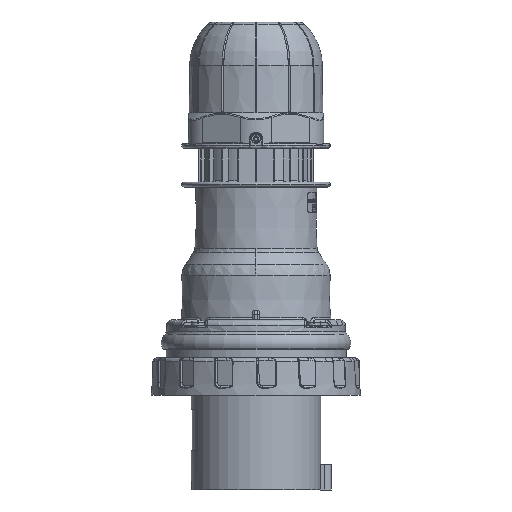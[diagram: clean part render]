
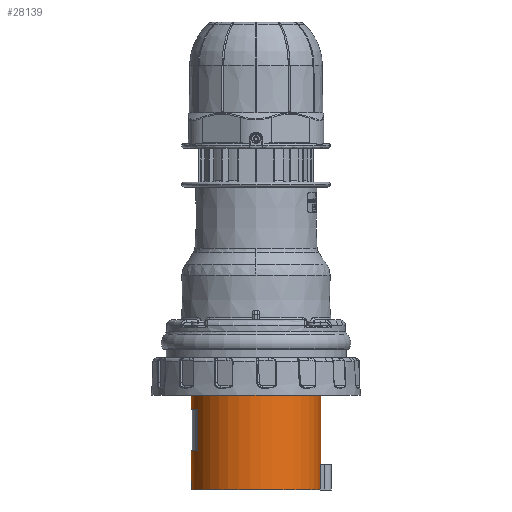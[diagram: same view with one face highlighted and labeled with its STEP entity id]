
A CAD part, left-side view. The second image highlights one B-rep face of the part: STEP entity #28139.
In plain terms, the highlighted cylindrical face has radius 40.5 mm (diameter 81 mm), a full revolution.
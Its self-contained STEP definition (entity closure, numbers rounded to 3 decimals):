
#1108=CYLINDRICAL_SURFACE('',#92622,40.5);
#4261=LINE('',#145912,#10192);
#4265=LINE('',#145924,#10196);
#4275=LINE('',#145955,#10206);
#4278=LINE('',#145961,#10209);
#4343=LINE('',#146230,#10274);
#4344=LINE('',#146234,#10275);
#10192=VECTOR('',#105226,1.);
#10196=VECTOR('',#105238,1.);
#10206=VECTOR('',#105268,1.);
#10209=VECTOR('',#105273,1.);
#10274=VECTOR('',#105562,1.);
#10275=VECTOR('',#105565,1.);
#28139=ADVANCED_FACE('',(#31925,#31926,#31927),#1108,.T.);
#31925=FACE_BOUND('',#34766,.T.);
#31926=FACE_BOUND('',#34767,.T.);
#31927=FACE_BOUND('',#34768,.T.);
#34766=EDGE_LOOP('',(#48253,#48254,#48255,#48256));
#34767=EDGE_LOOP('',(#48257,#48258,#48259,#48260));
#34768=EDGE_LOOP('',(#48261,#48262,#48263,#48264));
#48253=ORIENTED_EDGE('',*,*,#78365,.F.);
#48254=ORIENTED_EDGE('',*,*,#78366,.F.);
#48255=ORIENTED_EDGE('',*,*,#78367,.F.);
#48256=ORIENTED_EDGE('',*,*,#78368,.F.);
#48257=ORIENTED_EDGE('',*,*,#78230,.F.);
#48258=ORIENTED_EDGE('',*,*,#78369,.F.);
#48259=ORIENTED_EDGE('',*,*,#78233,.T.);
#48260=ORIENTED_EDGE('',*,*,#78227,.T.);
#48261=ORIENTED_EDGE('',*,*,#78370,.T.);
#48262=ORIENTED_EDGE('',*,*,#78209,.F.);
#48263=ORIENTED_EDGE('',*,*,#78217,.F.);
#48264=ORIENTED_EDGE('',*,*,#78215,.F.);
#67789=VERTEX_POINT('',#145911);
#67790=VERTEX_POINT('',#145913);
#67793=VERTEX_POINT('',#145923);
#67794=VERTEX_POINT('',#145925);
#67801=VERTEX_POINT('',#145946);
#67802=VERTEX_POINT('',#145948);
#67804=VERTEX_POINT('',#145954);
#67805=VERTEX_POINT('',#145958);
#67897=VERTEX_POINT('',#146228);
#67898=VERTEX_POINT('',#146229);
#67899=VERTEX_POINT('',#146231);
#67900=VERTEX_POINT('',#146233);
#78209=EDGE_CURVE('',#67789,#67790,#4261,.T.);
#78215=EDGE_CURVE('',#67793,#67794,#4265,.T.);
#78217=EDGE_CURVE('',#67794,#67789,#87796,.T.);
#78227=EDGE_CURVE('',#67801,#67802,#87800,.T.);
#78230=EDGE_CURVE('',#67804,#67802,#4275,.T.);
#78233=EDGE_CURVE('',#67805,#67801,#4278,.T.);
#78365=EDGE_CURVE('',#67897,#67898,#87868,.T.);
#78366=EDGE_CURVE('',#67899,#67897,#4343,.T.);
#78367=EDGE_CURVE('',#67900,#67899,#87869,.T.);
#78368=EDGE_CURVE('',#67898,#67900,#4344,.T.);
#78369=EDGE_CURVE('',#67805,#67804,#87870,.T.);
#78370=EDGE_CURVE('',#67793,#67790,#87871,.T.);
#87796=CIRCLE('',#92497,40.5);
#87800=CIRCLE('',#92504,40.5);
#87868=CIRCLE('',#92618,40.5);
#87869=CIRCLE('',#92619,40.5);
#87870=CIRCLE('',#92620,40.5);
#87871=CIRCLE('',#92621,40.5);
#92497=AXIS2_PLACEMENT_3D('',#145928,#105242,#105243);
#92504=AXIS2_PLACEMENT_3D('',#145949,#105262,#105263);
#92618=AXIS2_PLACEMENT_3D('',#146227,#105560,#105561);
#92619=AXIS2_PLACEMENT_3D('',#146232,#105563,#105564);
#92620=AXIS2_PLACEMENT_3D('',#146235,#105566,#105567);
#92621=AXIS2_PLACEMENT_3D('',#146236,#105568,#105569);
#92622=AXIS2_PLACEMENT_3D('',#146237,#105570,#105571);
#105226=DIRECTION('',(0.,0.,-1.));
#105238=DIRECTION('',(0.,0.,1.));
#105242=DIRECTION('',(0.,0.,-1.));
#105243=DIRECTION('',(-1.,0.,0.));
#105262=DIRECTION('',(0.,0.,-1.));
#105263=DIRECTION('',(-1.,0.,0.));
#105268=DIRECTION('',(0.,0.,1.));
#105273=DIRECTION('',(0.,0.,1.));
#105560=DIRECTION('',(0.,0.,1.));
#105561=DIRECTION('',(0.,1.,0.));
#105562=DIRECTION('',(0.,0.,-1.));
#105563=DIRECTION('',(0.,0.,-1.));
#105564=DIRECTION('',(0.,-1.,0.));
#105565=DIRECTION('',(0.,0.,1.));
#105566=DIRECTION('',(0.,0.,1.));
#105567=DIRECTION('',(-1.,0.,0.));
#105568=DIRECTION('',(0.,0.,1.));
#105569=DIRECTION('',(-1.,0.,0.));
#105570=DIRECTION('',(0.,0.,1.));
#105571=DIRECTION('',(1.,0.,0.));
#145911=CARTESIAN_POINT('',(-11.519,-24.656,-263.45));
#145912=CARTESIAN_POINT('',(-11.519,-24.656,-263.45));
#145913=CARTESIAN_POINT('',(-11.519,-24.656,-279.7));
#145923=CARTESIAN_POINT('',(-3.719,-24.656,-279.7));
#145924=CARTESIAN_POINT('',(-3.719,-24.656,-279.7));
#145925=CARTESIAN_POINT('',(-3.719,-24.656,-263.45));
#145928=CARTESIAN_POINT('',(-7.619,15.656,-263.45));
#145946=CARTESIAN_POINT('',(-3.719,-24.656,-208.7));
#145948=CARTESIAN_POINT('',(-11.519,-24.656,-208.7));
#145949=CARTESIAN_POINT('',(-7.619,15.656,-208.7));
#145954=CARTESIAN_POINT('',(-11.519,-24.656,-209.2));
#145955=CARTESIAN_POINT('',(-11.519,-24.656,-209.2));
#145958=CARTESIAN_POINT('',(-3.719,-24.656,-209.2));
#145961=CARTESIAN_POINT('',(-3.719,-24.656,-209.2));
#146227=CARTESIAN_POINT('',(-7.619,15.656,-255.2));
#146228=CARTESIAN_POINT('',(9.881,52.18,-255.2));
#146229=CARTESIAN_POINT('',(-25.119,52.18,-255.2));
#146230=CARTESIAN_POINT('',(9.881,52.18,-279.7));
#146231=CARTESIAN_POINT('',(9.881,52.18,-229.2));
#146232=CARTESIAN_POINT('',(-7.619,15.656,-229.2));
#146233=CARTESIAN_POINT('',(-25.119,52.18,-229.2));
#146234=CARTESIAN_POINT('',(-25.119,52.18,-279.7));
#146235=CARTESIAN_POINT('',(-7.619,15.656,-209.2));
#146236=CARTESIAN_POINT('',(-7.619,15.656,-279.7));
#146237=CARTESIAN_POINT('',(-7.619,15.656,-279.7));
